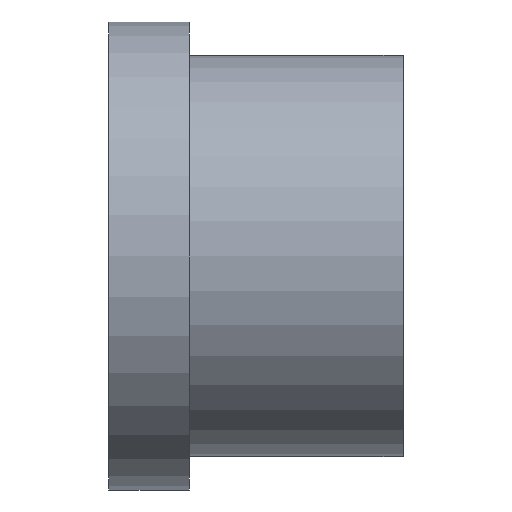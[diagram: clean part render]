
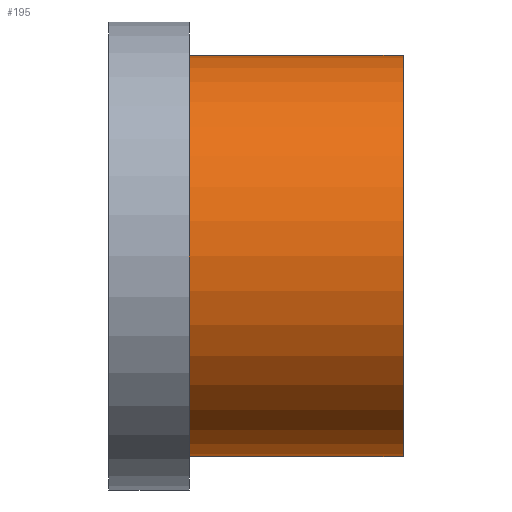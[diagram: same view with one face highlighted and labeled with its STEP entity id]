
A CAD part, left-side view. The second image highlights one B-rep face of the part: STEP entity #195.
In plain terms, the highlighted cylindrical face has radius 15 mm (diameter 30 mm), a full revolution.
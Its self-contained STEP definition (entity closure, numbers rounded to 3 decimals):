
#32=ORIENTED_EDGE('',*,*,#50,.T.);
#33=ORIENTED_EDGE('',*,*,#49,.F.);
#49=EDGE_CURVE('',#59,#59,#69,.T.);
#50=EDGE_CURVE('',#60,#60,#70,.T.);
#59=VERTEX_POINT('',#280);
#60=VERTEX_POINT('',#283);
#69=CIRCLE('',#213,15.);
#70=CIRCLE('',#215,15.);
#82=EDGE_LOOP('',(#32));
#83=EDGE_LOOP('',(#33));
#102=FACE_BOUND('',#82,.T.);
#103=FACE_BOUND('',#83,.T.);
#117=CYLINDRICAL_SURFACE('',#214,15.);
#195=ADVANCED_FACE('',(#102,#103),#117,.T.);
#213=AXIS2_PLACEMENT_3D('',#279,#241,#242);
#214=AXIS2_PLACEMENT_3D('',#281,#243,#244);
#215=AXIS2_PLACEMENT_3D('',#282,#245,#246);
#241=DIRECTION('',(0.,-1.,0.));
#242=DIRECTION('',(0.,0.,-1.));
#243=DIRECTION('',(0.,-1.,0.));
#244=DIRECTION('',(0.,0.,-1.));
#245=DIRECTION('',(0.,-1.,0.));
#246=DIRECTION('',(0.,0.,-1.));
#279=CARTESIAN_POINT('',(0.,0.,0.));
#280=CARTESIAN_POINT('',(0.,0.,-15.));
#281=CARTESIAN_POINT('',(0.,0.,0.));
#282=CARTESIAN_POINT('',(0.,16.,0.));
#283=CARTESIAN_POINT('',(0.,16.,-15.));
